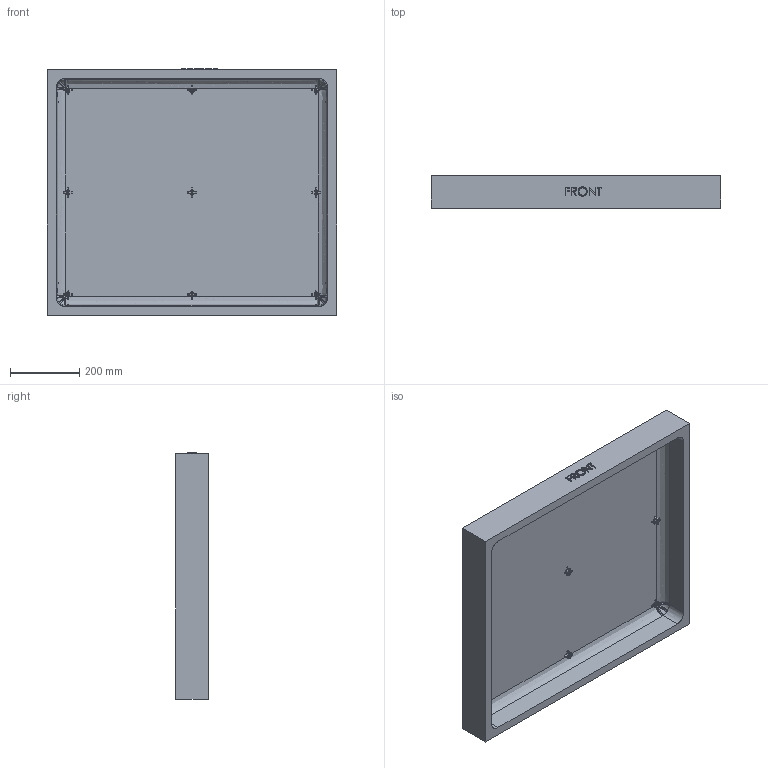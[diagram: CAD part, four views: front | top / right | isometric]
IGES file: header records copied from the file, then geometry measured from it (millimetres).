
Start section: SolidWorks IGES file using analytic representation for surfaces
Global section: file name: C:\working\1690 OEM TOP.IGS; native system: SolidWorks 2006 by SolidWorks Corporation; preprocessor: SolidWorks 2006 by SolidWorks Corporation; author: shuerta; date: 070309.132847; units: inch
Bounding box: 835.91 x 95 x 711.45 mm (x, y, z)
Surface area: 1686570.9 mm2 (no closed solid volume)
Topology: 0 solids, 0 shells, 1238 faces, 9256 edges, 9231 vertices
Faces by surface type: bspline 708, revolution 530
